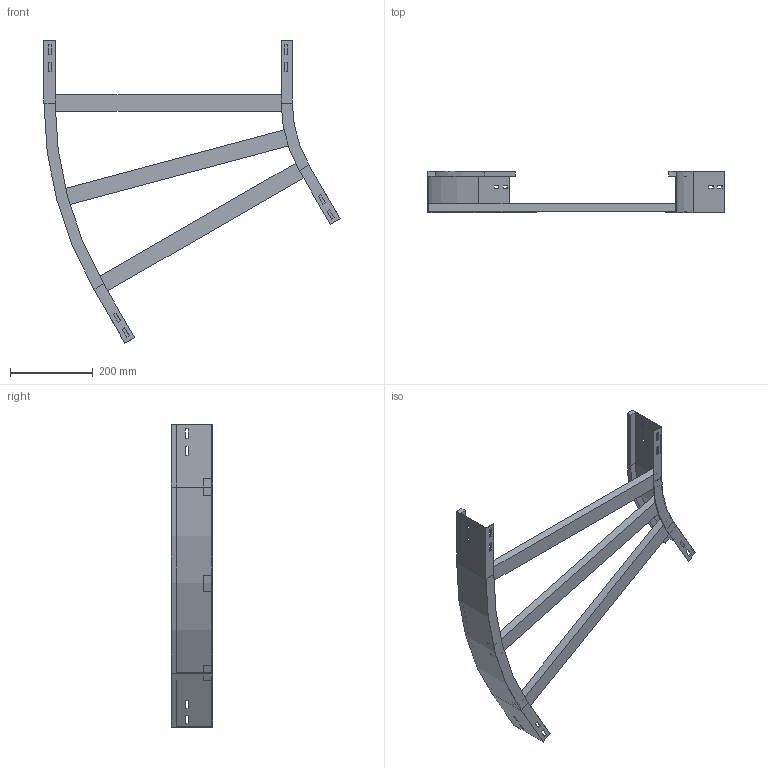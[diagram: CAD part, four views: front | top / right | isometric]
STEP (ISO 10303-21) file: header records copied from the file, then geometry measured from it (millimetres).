
FILE_DESCRIPTION (( 'STEP AP214' ), '1' );
FILE_NAME ('A2_12B3D600.step', '2025-02-21T15:07:21', ( '' ), ( '' ), 'SwSTEP 2.0', 'SolidWorks 2023', '' );
FILE_SCHEMA (( 'AUTOMOTIVE_DESIGN' ));
Length unit declared in the file: millimetre
Products named in the file (4): A2_LONGH.ESTERNO 30°_H100_R300+600; TRAVERSINO_600; A2_12B3D600; A2_LONGH.INTERNO 30°_H100_R300
Assembly tree (5 placements, depth 2):
  A2_12B3D600
    A2_LONGH.INTERNO 30°_H100_R300
    A2_LONGH.ESTERNO 30°_H100_R300+600
    TRAVERSINO_600  x3
Bounding box: 715.19 x 100 x 729.9 mm (x, y, z)
Volume: 1986268.8 mm3; surface area: 571203.1 mm2
Topology: 5 solids, 5 shells, 134 faces, 340 edges, 216 vertices
Faces by surface type: plane 126, cylinder 8
Entity records: 3821 total; most frequent: CARTESIAN_POINT 646, ORIENTED_EDGE 632, DIRECTION 592, EDGE_CURVE 316, VECTOR 300, LINE 300, VERTEX_POINT 200, EDGE_LOOP 154
